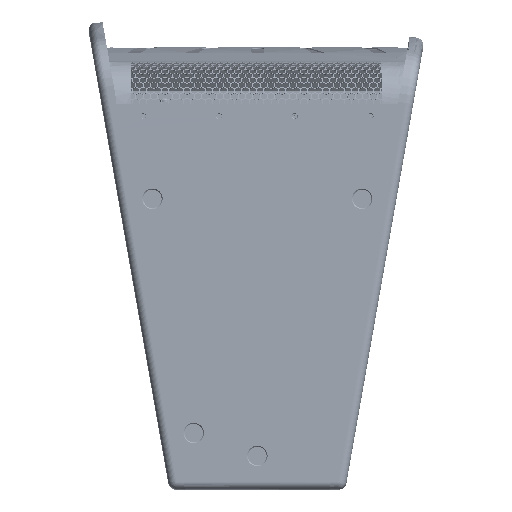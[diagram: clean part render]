
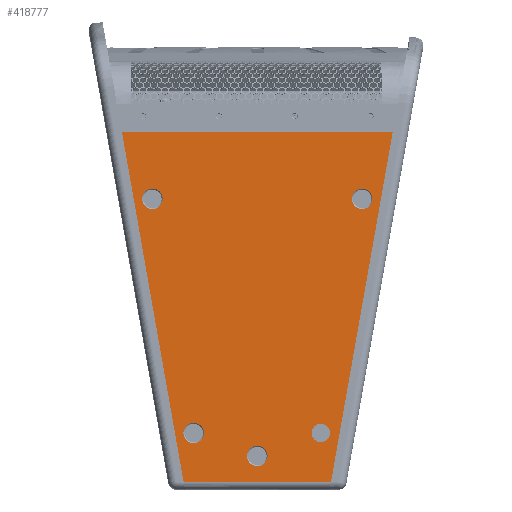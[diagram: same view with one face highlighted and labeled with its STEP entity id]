
A CAD part, left-side view. The second image highlights one B-rep face of the part: STEP entity #418777.
In plain terms, the highlighted planar face has unit normal (-1, 0, 0).
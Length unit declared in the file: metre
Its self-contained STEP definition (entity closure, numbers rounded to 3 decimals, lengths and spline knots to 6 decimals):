
#3281 = AXIS2_PLACEMENT_3D ( 'NONE', #81472, #383700, #197512 ) ;
#6953 = DIRECTION ( 'NONE',  ( -1., 0., 0. ) ) ;
#11834 = EDGE_LOOP ( 'NONE', ( #70967, #172261, #216605, #26645 ) ) ;
#21571 = ORIENTED_EDGE ( 'NONE', *, *, #447466, .F. ) ;
#21850 = CARTESIAN_POINT ( 'NONE',  ( -0.407823, 0.206596, -0.350015 ) ) ;
#24421 = DIRECTION ( 'NONE',  ( 0., -1., 0. ) ) ;
#26645 = ORIENTED_EDGE ( 'NONE', *, *, #426078, .F. ) ;
#32021 = CARTESIAN_POINT ( 'NONE',  ( -0.407823, 0.246895, -0.121471 ) ) ;
#37485 = VERTEX_POINT ( 'NONE', #205028 ) ;
#40411 = VERTEX_POINT ( 'NONE', #414962 ) ;
#40932 = VERTEX_POINT ( 'NONE', #414405 ) ;
#44510 = CARTESIAN_POINT ( 'NONE',  ( -0.407823, 0.246895, -0.131471 ) ) ;
#46449 = DIRECTION ( 'NONE',  ( -1., 0., 0. ) ) ;
#46732 = FACE_BOUND ( 'NONE', #238866, .T. ) ;
#48798 = EDGE_CURVE ( 'NONE', #146072, #135872, #88411, .T. ) ;
#50584 = EDGE_LOOP ( 'NONE', ( #375185, #429143 ) ) ;
#61327 = LINE ( 'NONE', #63741, #453636 ) ;
#62018 = EDGE_CURVE ( 'NONE', #264437, #407317, #91920, .T. ) ;
#63741 = CARTESIAN_POINT ( 'NONE',  ( -0.407823, 0.265051, -0.132224 ) ) ;
#68506 = DIRECTION ( 'NONE',  ( -1., 0., 0. ) ) ;
#70967 = ORIENTED_EDGE ( 'NONE', *, *, #103579, .F. ) ;
#72307 = CIRCLE ( 'NONE', #234242, 0.01 ) ;
#75101 = ORIENTED_EDGE ( 'NONE', *, *, #449813, .F. ) ;
#78397 = CARTESIAN_POINT ( 'NONE',  ( -0.407823, 0.01238, -0.066304 ) ) ;
#80540 = CIRCLE ( 'NONE', #211816, 0.01 ) ;
#81472 = CARTESIAN_POINT ( 'NONE',  ( -0.407823, 0.082435, -0.360015 ) ) ;
#82643 = VERTEX_POINT ( 'NONE', #440757 ) ;
#85794 = VERTEX_POINT ( 'NONE', #297568 ) ;
#88330 = EDGE_LOOP ( 'NONE', ( #147136, #21571 ) ) ;
#88411 = CIRCLE ( 'NONE', #119567, 0.01 ) ;
#90090 = DIRECTION ( 'NONE',  ( 0., 0.174, -0.985 ) ) ;
#91920 = CIRCLE ( 'NONE', #168301, 0.00889 ) ;
#92647 = EDGE_CURVE ( 'NONE', #407317, #264437, #304840, .T. ) ;
#96207 = CARTESIAN_POINT ( 'NONE',  ( -0.407823, 0.042136, -0.131471 ) ) ;
#99531 = AXIS2_PLACEMENT_3D ( 'NONE', #343934, #46449, #235065 ) ;
#103579 = EDGE_CURVE ( 'NONE', #40411, #82643, #374816, .T. ) ;
#114630 = FACE_BOUND ( 'NONE', #313480, .T. ) ;
#119567 = AXIS2_PLACEMENT_3D ( 'NONE', #254764, #68506, #365985 ) ;
#128921 = AXIS2_PLACEMENT_3D ( 'NONE', #186279, #372439, #159447 ) ;
#130025 = EDGE_CURVE ( 'NONE', #343042, #471702, #316381, .T. ) ;
#132185 = EDGE_CURVE ( 'NONE', #411722, #387973, #315677, .T. ) ;
#135872 = VERTEX_POINT ( 'NONE', #304128 ) ;
#138357 = CARTESIAN_POINT ( 'NONE',  ( -0.407823, 0.042136, -0.141471 ) ) ;
#146072 = VERTEX_POINT ( 'NONE', #21850 ) ;
#147136 = ORIENTED_EDGE ( 'NONE', *, *, #232768, .F. ) ;
#147418 = VERTEX_POINT ( 'NONE', #78397 ) ;
#150449 = EDGE_LOOP ( 'NONE', ( #374314, #75101 ) ) ;
#153350 = PLANE ( 'NONE',  #173403 ) ;
#159345 = EDGE_CURVE ( 'NONE', #471702, #343042, #399544, .T. ) ;
#159447 = DIRECTION ( 'NONE',  ( 0., 0., -1. ) ) ;
#159462 = CARTESIAN_POINT ( 'NONE',  ( -0.407823, 0.144179, -0.407448 ) ) ;
#160469 = FACE_BOUND ( 'NONE', #88330, .T. ) ;
#165238 = CARTESIAN_POINT ( 'NONE',  ( -0.407823, 0.246895, -0.141471 ) ) ;
#168301 = AXIS2_PLACEMENT_3D ( 'NONE', #205220, #355160, #243895 ) ;
#172261 = ORIENTED_EDGE ( 'NONE', *, *, #438302, .F. ) ;
#173403 = AXIS2_PLACEMENT_3D ( 'NONE', #300845, #307957, #225873 ) ;
#174489 = CARTESIAN_POINT ( 'NONE',  ( -0.407823, 0.143985, -0.066304 ) ) ;
#177373 = AXIS2_PLACEMENT_3D ( 'NONE', #478311, #335504, #301611 ) ;
#186279 = CARTESIAN_POINT ( 'NONE',  ( -0.407823, 0.144516, -0.382451 ) ) ;
#187515 = ORIENTED_EDGE ( 'NONE', *, *, #62018, .F. ) ;
#189641 = FACE_BOUND ( 'NONE', #150449, .T. ) ;
#192011 = DIRECTION ( 'NONE',  ( -1., 0., 0. ) ) ;
#196713 = FACE_OUTER_BOUND ( 'NONE', #11834, .T. ) ;
#197512 = DIRECTION ( 'NONE',  ( 0., 0., -1. ) ) ;
#205028 = CARTESIAN_POINT ( 'NONE',  ( -0.407823, 0.144516, -0.392451 ) ) ;
#205220 = CARTESIAN_POINT ( 'NONE',  ( -0.407823, 0.082435, -0.360015 ) ) ;
#208737 = VECTOR ( 'NONE', #306951, 1. ) ;
#211816 = AXIS2_PLACEMENT_3D ( 'NONE', #336080, #6953, #447316 ) ;
#216605 = ORIENTED_EDGE ( 'NONE', *, *, #301101, .F. ) ;
#218758 = CARTESIAN_POINT ( 'NONE',  ( -0.407823, 0.144516, -0.382451 ) ) ;
#225873 = DIRECTION ( 'NONE',  ( 0., 0., 1. ) ) ;
#230611 = DIRECTION ( 'NONE',  ( 0., 0., -1. ) ) ;
#232768 = EDGE_CURVE ( 'NONE', #85794, #37485, #337483, .T. ) ;
#234242 = AXIS2_PLACEMENT_3D ( 'NONE', #96207, #234280, #318790 ) ;
#234280 = DIRECTION ( 'NONE',  ( -1., 0., 0. ) ) ;
#235065 = DIRECTION ( 'NONE',  ( 0., 0., -1. ) ) ;
#238866 = EDGE_LOOP ( 'NONE', ( #315185, #406032 ) ) ;
#243895 = DIRECTION ( 'NONE',  ( 0., 0., -1. ) ) ;
#249676 = ORIENTED_EDGE ( 'NONE', *, *, #92647, .F. ) ;
#254764 = CARTESIAN_POINT ( 'NONE',  ( -0.407823, 0.206596, -0.360015 ) ) ;
#257082 = AXIS2_PLACEMENT_3D ( 'NONE', #218758, #192011, #230611 ) ;
#264437 = VERTEX_POINT ( 'NONE', #419645 ) ;
#269182 = LINE ( 'NONE', #278700, #379715 ) ;
#278700 = CARTESIAN_POINT ( 'NONE',  ( -0.407823, 0.023966, -0.132013 ) ) ;
#297568 = CARTESIAN_POINT ( 'NONE',  ( -0.407823, 0.144516, -0.372451 ) ) ;
#300845 = CARTESIAN_POINT ( 'NONE',  ( -0.407823, 0.143443, -0.044784 ) ) ;
#301101 = EDGE_CURVE ( 'NONE', #40932, #147418, #355862, .T. ) ;
#301611 = DIRECTION ( 'NONE',  ( 0., 0., -1. ) ) ;
#304128 = CARTESIAN_POINT ( 'NONE',  ( -0.407823, 0.206596, -0.370015 ) ) ;
#304840 = CIRCLE ( 'NONE', #3281, 0.00889 ) ;
#306951 = DIRECTION ( 'NONE',  ( 0., 1., 0. ) ) ;
#307957 = DIRECTION ( 'NONE',  ( -1., 0., 0. ) ) ;
#313480 = EDGE_LOOP ( 'NONE', ( #249676, #187515 ) ) ;
#315185 = ORIENTED_EDGE ( 'NONE', *, *, #130025, .F. ) ;
#315677 = CIRCLE ( 'NONE', #99531, 0.01 ) ;
#316381 = CIRCLE ( 'NONE', #177373, 0.01 ) ;
#318790 = DIRECTION ( 'NONE',  ( 0., 0., -1. ) ) ;
#321458 = CARTESIAN_POINT ( 'NONE',  ( -0.407823, 0.042136, -0.121471 ) ) ;
#334417 = CIRCLE ( 'NONE', #257082, 0.01 ) ;
#335504 = DIRECTION ( 'NONE',  ( -1., 0., 0. ) ) ;
#336080 = CARTESIAN_POINT ( 'NONE',  ( -0.407823, 0.206596, -0.360015 ) ) ;
#337483 = CIRCLE ( 'NONE', #128921, 0.01 ) ;
#343042 = VERTEX_POINT ( 'NONE', #32021 ) ;
#343934 = CARTESIAN_POINT ( 'NONE',  ( -0.407823, 0.042136, -0.131471 ) ) ;
#344221 = FACE_BOUND ( 'NONE', #50584, .T. ) ;
#353201 = AXIS2_PLACEMENT_3D ( 'NONE', #44510, #458039, #375971 ) ;
#355160 = DIRECTION ( 'NONE',  ( -1., 0., 0. ) ) ;
#355862 = LINE ( 'NONE', #174489, #403156 ) ;
#365985 = DIRECTION ( 'NONE',  ( 0., 0., -1. ) ) ;
#372439 = DIRECTION ( 'NONE',  ( -1., 0., 0. ) ) ;
#374314 = ORIENTED_EDGE ( 'NONE', *, *, #48798, .F. ) ;
#374816 = LINE ( 'NONE', #159462, #208737 ) ;
#375185 = ORIENTED_EDGE ( 'NONE', *, *, #445612, .F. ) ;
#375971 = DIRECTION ( 'NONE',  ( 0., 0., -1. ) ) ;
#379715 = VECTOR ( 'NONE', #90090, 1. ) ;
#383700 = DIRECTION ( 'NONE',  ( -1., 0., 0. ) ) ;
#387973 = VERTEX_POINT ( 'NONE', #321458 ) ;
#399544 = CIRCLE ( 'NONE', #353201, 0.01 ) ;
#403156 = VECTOR ( 'NONE', #24421, 1. ) ;
#406032 = ORIENTED_EDGE ( 'NONE', *, *, #159345, .F. ) ;
#407317 = VERTEX_POINT ( 'NONE', #454570 ) ;
#411722 = VERTEX_POINT ( 'NONE', #138357 ) ;
#414405 = CARTESIAN_POINT ( 'NONE',  ( -0.407823, 0.276674, -0.066304 ) ) ;
#414962 = CARTESIAN_POINT ( 'NONE',  ( -0.407823, 0.072533, -0.407448 ) ) ;
#418777 = ADVANCED_FACE ( 'NONE', ( #160469, #344221, #46732, #189641, #114630, #196713 ), #153350, .T. ) ;
#419645 = CARTESIAN_POINT ( 'NONE',  ( -0.407823, 0.082435, -0.368905 ) ) ;
#426078 = EDGE_CURVE ( 'NONE', #82643, #40932, #61327, .T. ) ;
#429143 = ORIENTED_EDGE ( 'NONE', *, *, #132185, .F. ) ;
#438302 = EDGE_CURVE ( 'NONE', #147418, #40411, #269182, .T. ) ;
#440757 = CARTESIAN_POINT ( 'NONE',  ( -0.407823, 0.216521, -0.407448 ) ) ;
#445612 = EDGE_CURVE ( 'NONE', #387973, #411722, #72307, .T. ) ;
#447316 = DIRECTION ( 'NONE',  ( 0., 0., -1. ) ) ;
#447466 = EDGE_CURVE ( 'NONE', #37485, #85794, #334417, .T. ) ;
#449813 = EDGE_CURVE ( 'NONE', #135872, #146072, #80540, .T. ) ;
#453636 = VECTOR ( 'NONE', #470123, 1. ) ;
#454570 = CARTESIAN_POINT ( 'NONE',  ( -0.407823, 0.082435, -0.351125 ) ) ;
#458039 = DIRECTION ( 'NONE',  ( -1., 0., 0. ) ) ;
#470123 = DIRECTION ( 'NONE',  ( 0., 0.174, 0.985 ) ) ;
#471702 = VERTEX_POINT ( 'NONE', #165238 ) ;
#478311 = CARTESIAN_POINT ( 'NONE',  ( -0.407823, 0.246895, -0.131471 ) ) ;
